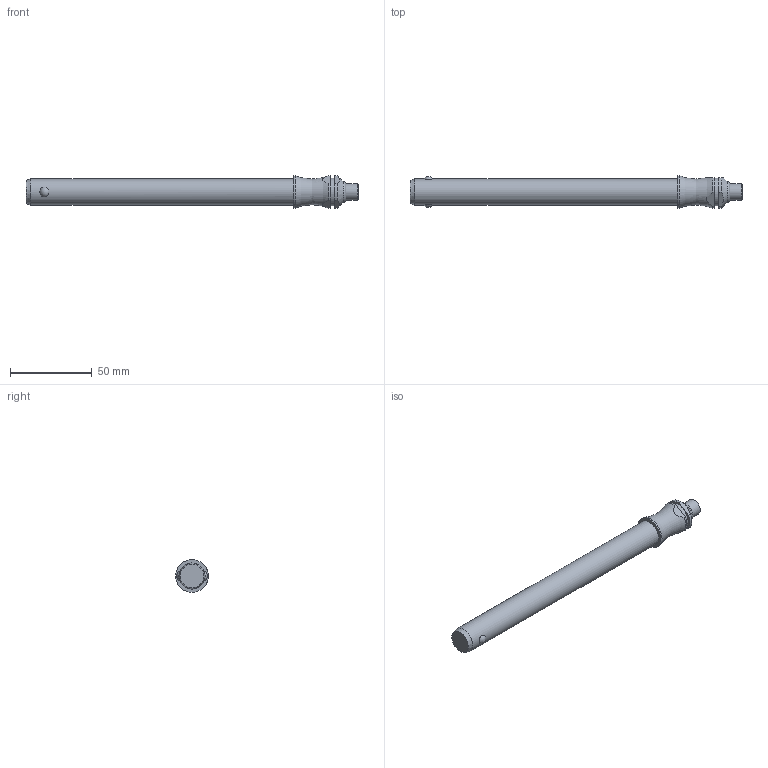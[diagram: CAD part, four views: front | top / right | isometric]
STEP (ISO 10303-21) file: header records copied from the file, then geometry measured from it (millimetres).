
FILE_DESCRIPTION( ( 'STEP AP203' ), '1' );
FILE_NAME( 'C:/Temp/Ganter_Step_05_03_2020/data/3_1/gn113_3/Stainless Steel-Ball lock pin GN 113.3-16-150 (deactivated).stp', '2020-03-12T08:19:01', ( 'License CC BY-ND 4.0' ), ( 'CADENAS' ), ' ', 'PARTsolutions', ' ' );
FILE_SCHEMA( ( 'CONFIG_CONTROL_DESIGN' ) );
Length unit declared in the file: millimetre
Products named in the file (1): _Stainless Steel-Ball lock pin GN 113.3-16-150 (deactivated)
Bounding box: 203.5 x 20 x 20 mm (x, y, z)
Volume: 40923.3 mm3; surface area: 10803.6 mm2
Topology: 1 solids, 1 shells, 28 faces, 60 edges, 39 vertices
Faces by surface type: plane 11, cylinder 10, cone 3, torus 2, sphere 2
Full cylindrical faces by diameter (mm): 10 x1, 16 x1, 17 x1, 20 x1
Entity records: 966 total; most frequent: CARTESIAN_POINT 350, DIRECTION 122, ORIENTED_EDGE 98, AXIS2_PLACEMENT_3D 52, EDGE_CURVE 49, EDGE_LOOP 42, VERTEX_POINT 38, FACE_OUTER_BOUND 34
